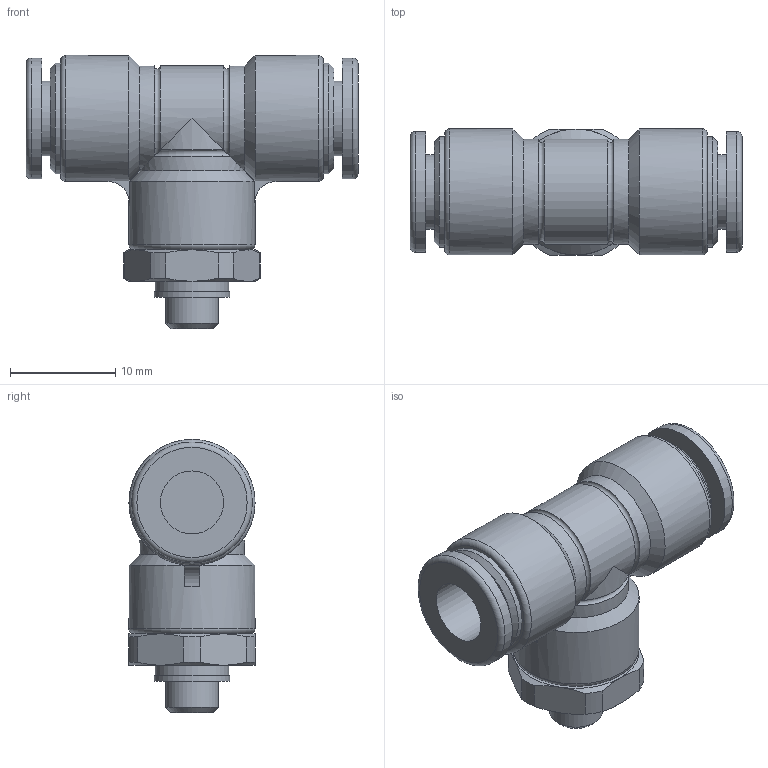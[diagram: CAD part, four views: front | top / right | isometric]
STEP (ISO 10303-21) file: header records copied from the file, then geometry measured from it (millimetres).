
FILE_DESCRIPTION(/* description */ (''),/* implementation_level */ '2;1');
FILE_NAME(/* name */ 'E:\2013年度版　3D-DATA\【02】 TOUCH CONNECTOR FIVE SUS\[03] MALE BRANCH TEE\[04] FS6-M5MT FS6-M5MTW.stp',/* time_stamp */ '2013-08-06T16:53:56+09:00',/* author */ ('takahashi-pc2'),/* organization */ (''),/* preprocessor_version */ 'ST-DEVELOPER v15.2',/* originating_system */ 'Autodesk Inventor 2014',/* authorisation */ '');
FILE_SCHEMA (('AUTOMOTIVE_DESIGN { 1 0 10303 214 3 1 1 }'));
Length unit declared in the file: millimetre
Products named in the file (1): [04] FS6-M5MT FS6-M5MTW
Bounding box: 31.6 x 12 x 26 mm (x, y, z)
Volume: 3635.7 mm3; surface area: 2630.3 mm2
Topology: 1 solids, 1 shells, 90 faces, 200 edges, 124 vertices
Faces by surface type: plane 33, cylinder 29, cone 19, torus 9
Full cylindrical faces by diameter (mm): 5 x1, 6 x2, 7 x1, 7.1 x2, 7.2 x1, 10.5 x2, 11.5 x2, 12 x3
Entity records: 2443 total; most frequent: CARTESIAN_POINT 551, DIRECTION 412, ORIENTED_EDGE 354, AXIS2_PLACEMENT_3D 184, EDGE_CURVE 177, EDGE_LOOP 124, VERTEX_POINT 123, ADVANCED_FACE 90
